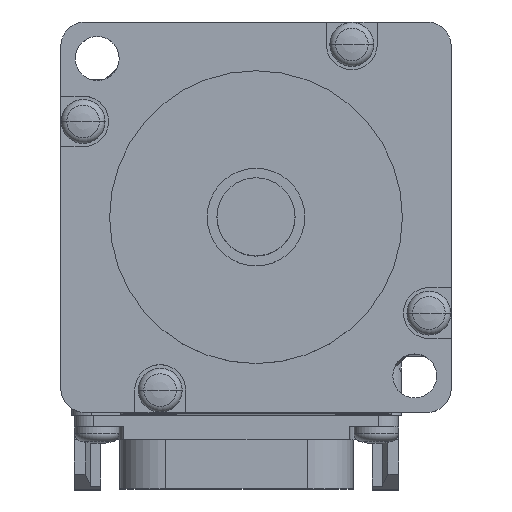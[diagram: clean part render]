
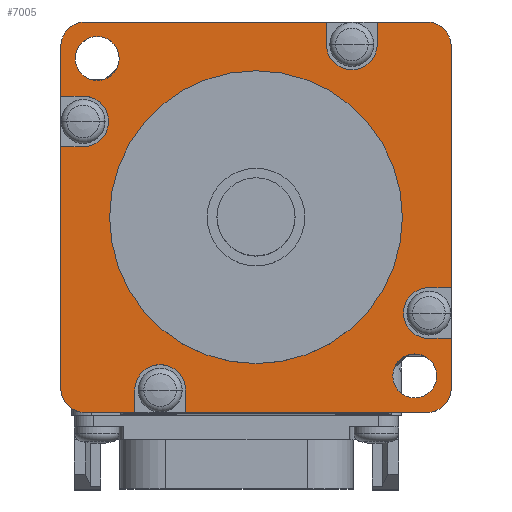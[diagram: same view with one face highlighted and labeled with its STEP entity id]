
A CAD part, top view. The second image highlights one B-rep face of the part: STEP entity #7005.
In plain terms, the highlighted planar face has unit normal (0, 0, 1).
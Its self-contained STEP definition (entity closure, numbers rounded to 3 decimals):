
#29=CARTESIAN_POINT('',(17.5,17.5,0.));
#30=DIRECTION('',(0.,0.,-1.));
#31=DIRECTION('',(0.,1.,0.));
#32=AXIS2_PLACEMENT_3D('',#29,#30,#31);
#34=CARTESIAN_POINT('',(17.711,-9.817,0.));
#35=DIRECTION('',(0.,0.,1.));
#36=DIRECTION('',(0.,1.,0.));
#37=AXIS2_PLACEMENT_3D('',#34,#35,#36);
#39=CARTESIAN_POINT('',(17.5,-17.5,0.));
#40=DIRECTION('',(0.,0.,-1.));
#41=DIRECTION('',(1.,0.,0.));
#42=AXIS2_PLACEMENT_3D('',#39,#40,#41);
#44=CARTESIAN_POINT('',(-9.817,-17.711,0.));
#45=DIRECTION('',(0.,0.,1.));
#46=DIRECTION('',(1.,0.,0.));
#47=AXIS2_PLACEMENT_3D('',#44,#45,#46);
#49=CARTESIAN_POINT('',(-17.5,-17.5,0.));
#50=DIRECTION('',(0.,0.,-1.));
#51=DIRECTION('',(0.,-1.,0.));
#52=AXIS2_PLACEMENT_3D('',#49,#50,#51);
#54=CARTESIAN_POINT('',(-17.711,9.817,0.));
#55=DIRECTION('',(0.,0.,1.));
#56=DIRECTION('',(0.,-1.,0.));
#57=AXIS2_PLACEMENT_3D('',#54,#55,#56);
#59=CARTESIAN_POINT('',(-17.5,17.5,0.));
#60=DIRECTION('',(0.,0.,-1.));
#61=DIRECTION('',(-1.,0.,0.));
#62=AXIS2_PLACEMENT_3D('',#59,#60,#61);
#64=CARTESIAN_POINT('',(9.817,17.711,0.));
#65=DIRECTION('',(0.,0.,1.));
#66=DIRECTION('',(-1.,0.,0.));
#67=AXIS2_PLACEMENT_3D('',#64,#65,#66);
#69=CARTESIAN_POINT('',(16.263,-16.263,0.));
#70=DIRECTION('',(0.,0.,1.));
#71=DIRECTION('',(0.,-1.,0.));
#72=AXIS2_PLACEMENT_3D('',#69,#70,#71);
#74=CARTESIAN_POINT('',(16.263,-16.263,0.));
#75=DIRECTION('',(0.,0.,1.));
#76=DIRECTION('',(0.,1.,0.));
#77=AXIS2_PLACEMENT_3D('',#74,#75,#76);
#79=CARTESIAN_POINT('',(-16.263,16.263,0.));
#80=DIRECTION('',(0.,0.,1.));
#81=DIRECTION('',(0.,1.,0.));
#82=AXIS2_PLACEMENT_3D('',#79,#80,#81);
#84=CARTESIAN_POINT('',(-16.263,16.263,0.));
#85=DIRECTION('',(0.,0.,1.));
#86=DIRECTION('',(0.,-1.,0.));
#87=AXIS2_PLACEMENT_3D('',#84,#85,#86);
#89=CARTESIAN_POINT('',(0.,0.,0.));
#90=DIRECTION('',(0.,0.,1.));
#91=DIRECTION('',(-1.,0.,0.));
#92=AXIS2_PLACEMENT_3D('',#89,#90,#91);
#94=CARTESIAN_POINT('',(0.,0.,0.));
#95=DIRECTION('',(0.,0.,1.));
#96=DIRECTION('',(1.,0.,0.));
#97=AXIS2_PLACEMENT_3D('',#94,#95,#96);
#167=DIRECTION('',(-1.,0.,0.));
#168=VECTOR('',#167,5.083);
#169=CARTESIAN_POINT('',(17.5,20.,0.));
#170=LINE('',#169,#168);
#171=DIRECTION('',(-1.,0.,0.));
#172=VECTOR('',#171,24.717);
#173=CARTESIAN_POINT('',(7.217,20.,0.));
#174=LINE('',#173,#172);
#367=DIRECTION('',(0.,-1.,0.));
#368=VECTOR('',#367,5.083);
#369=CARTESIAN_POINT('',(-20.,17.5,0.));
#370=LINE('',#369,#368);
#371=DIRECTION('',(0.,-1.,0.));
#372=VECTOR('',#371,24.717);
#373=CARTESIAN_POINT('',(-20.,7.217,0.));
#374=LINE('',#373,#372);
#691=DIRECTION('',(0.,1.,0.));
#692=VECTOR('',#691,5.083);
#693=CARTESIAN_POINT('',(20.,-17.5,0.));
#694=LINE('',#693,#692);
#695=DIRECTION('',(0.,1.,0.));
#696=VECTOR('',#695,24.717);
#697=CARTESIAN_POINT('',(20.,-7.217,0.));
#698=LINE('',#697,#696);
#1278=DIRECTION('',(1.,0.,0.));
#1279=VECTOR('',#1278,5.083);
#1280=CARTESIAN_POINT('',(-17.5,-20.,0.));
#1281=LINE('',#1280,#1279);
#1282=DIRECTION('',(1.,0.,0.));
#1283=VECTOR('',#1282,24.717);
#1284=CARTESIAN_POINT('',(-7.217,-20.,0.));
#1285=LINE('',#1284,#1283);
#4302=DIRECTION('',(0.,1.,0.));
#4303=VECTOR('',#4302,2.289);
#4304=CARTESIAN_POINT('',(-12.417,-20.,0.));
#4305=LINE('',#4304,#4303);
#4318=DIRECTION('',(0.,-1.,0.));
#4319=VECTOR('',#4318,2.289);
#4320=CARTESIAN_POINT('',(-7.217,-17.711,0.));
#4321=LINE('',#4320,#4319);
#4880=DIRECTION('',(-1.,0.,0.));
#4881=VECTOR('',#4880,2.289);
#4882=CARTESIAN_POINT('',(20.,-12.417,0.));
#4883=LINE('',#4882,#4881);
#4896=DIRECTION('',(1.,0.,0.));
#4897=VECTOR('',#4896,2.289);
#4898=CARTESIAN_POINT('',(17.711,-7.217,0.));
#4899=LINE('',#4898,#4897);
#5123=DIRECTION('',(1.,0.,0.));
#5124=VECTOR('',#5123,2.289);
#5125=CARTESIAN_POINT('',(-20.,12.417,0.));
#5126=LINE('',#5125,#5124);
#5139=DIRECTION('',(-1.,0.,0.));
#5140=VECTOR('',#5139,2.289);
#5141=CARTESIAN_POINT('',(-17.711,7.217,0.));
#5142=LINE('',#5141,#5140);
#5230=DIRECTION('',(0.,-1.,0.));
#5231=VECTOR('',#5230,2.289);
#5232=CARTESIAN_POINT('',(12.417,20.,0.));
#5233=LINE('',#5232,#5231);
#5246=DIRECTION('',(0.,1.,0.));
#5247=VECTOR('',#5246,2.289);
#5248=CARTESIAN_POINT('',(7.217,17.711,0.));
#5249=LINE('',#5248,#5247);
#5375=CARTESIAN_POINT('',(15.,0.,0.));
#5376=VERTEX_POINT('',#5375);
#5377=CARTESIAN_POINT('',(-15.,0.,0.));
#5378=VERTEX_POINT('',#5377);
#5379=CARTESIAN_POINT('',(16.263,-18.513,0.));
#5380=CARTESIAN_POINT('',(16.263,-14.013,0.));
#5381=VERTEX_POINT('',#5379);
#5382=VERTEX_POINT('',#5380);
#5383=CARTESIAN_POINT('',(-16.263,18.513,0.));
#5384=CARTESIAN_POINT('',(-16.263,14.013,0.));
#5385=VERTEX_POINT('',#5383);
#5386=VERTEX_POINT('',#5384);
#5387=CARTESIAN_POINT('',(17.5,20.,0.));
#5388=CARTESIAN_POINT('',(20.,17.5,0.));
#5389=VERTEX_POINT('',#5387);
#5390=VERTEX_POINT('',#5388);
#5391=CARTESIAN_POINT('',(17.711,-7.217,0.));
#5392=CARTESIAN_POINT('',(20.,-7.217,0.));
#5393=VERTEX_POINT('',#5391);
#5394=VERTEX_POINT('',#5392);
#5395=CARTESIAN_POINT('',(17.711,-12.417,0.));
#5396=VERTEX_POINT('',#5395);
#5397=CARTESIAN_POINT('',(20.,-12.417,0.));
#5398=VERTEX_POINT('',#5397);
#5399=CARTESIAN_POINT('',(20.,-17.5,0.));
#5400=CARTESIAN_POINT('',(17.5,-20.,0.));
#5401=VERTEX_POINT('',#5399);
#5402=VERTEX_POINT('',#5400);
#5403=CARTESIAN_POINT('',(-7.217,-17.711,0.));
#5404=CARTESIAN_POINT('',(-7.217,-20.,0.));
#5405=VERTEX_POINT('',#5403);
#5406=VERTEX_POINT('',#5404);
#5407=CARTESIAN_POINT('',(-12.417,-17.711,0.));
#5408=VERTEX_POINT('',#5407);
#5409=CARTESIAN_POINT('',(-12.417,-20.,0.));
#5410=VERTEX_POINT('',#5409);
#5411=CARTESIAN_POINT('',(-17.5,-20.,0.));
#5412=CARTESIAN_POINT('',(-20.,-17.5,0.));
#5413=VERTEX_POINT('',#5411);
#5414=VERTEX_POINT('',#5412);
#5415=CARTESIAN_POINT('',(-17.711,7.217,0.));
#5416=CARTESIAN_POINT('',(-20.,7.217,0.));
#5417=VERTEX_POINT('',#5415);
#5418=VERTEX_POINT('',#5416);
#5419=CARTESIAN_POINT('',(-17.711,12.417,0.));
#5420=VERTEX_POINT('',#5419);
#5421=CARTESIAN_POINT('',(-20.,12.417,0.));
#5422=VERTEX_POINT('',#5421);
#5423=CARTESIAN_POINT('',(-20.,17.5,0.));
#5424=CARTESIAN_POINT('',(-17.5,20.,0.));
#5425=VERTEX_POINT('',#5423);
#5426=VERTEX_POINT('',#5424);
#5427=CARTESIAN_POINT('',(7.217,17.711,0.));
#5428=CARTESIAN_POINT('',(7.217,20.,0.));
#5429=VERTEX_POINT('',#5427);
#5430=VERTEX_POINT('',#5428);
#5431=CARTESIAN_POINT('',(12.417,17.711,0.));
#5432=VERTEX_POINT('',#5431);
#5433=CARTESIAN_POINT('',(12.417,20.,0.));
#5434=VERTEX_POINT('',#5433);
#6934=CARTESIAN_POINT('',(0.,0.,0.));
#6935=DIRECTION('',(0.,0.,1.));
#6936=DIRECTION('',(1.,0.,0.));
#6937=AXIS2_PLACEMENT_3D('',#6934,#6935,#6936);
#6938=PLANE('',#6937);
#6940=ORIENTED_EDGE('',*,*,#6939,.T.);
#6942=ORIENTED_EDGE('',*,*,#6941,.F.);
#6944=ORIENTED_EDGE('',*,*,#6943,.F.);
#6946=ORIENTED_EDGE('',*,*,#6945,.T.);
#6948=ORIENTED_EDGE('',*,*,#6947,.F.);
#6950=ORIENTED_EDGE('',*,*,#6949,.F.);
#6952=ORIENTED_EDGE('',*,*,#6951,.T.);
#6954=ORIENTED_EDGE('',*,*,#6953,.F.);
#6956=ORIENTED_EDGE('',*,*,#6955,.F.);
#6958=ORIENTED_EDGE('',*,*,#6957,.T.);
#6960=ORIENTED_EDGE('',*,*,#6959,.F.);
#6962=ORIENTED_EDGE('',*,*,#6961,.F.);
#6964=ORIENTED_EDGE('',*,*,#6963,.T.);
#6966=ORIENTED_EDGE('',*,*,#6965,.F.);
#6968=ORIENTED_EDGE('',*,*,#6967,.F.);
#6970=ORIENTED_EDGE('',*,*,#6969,.T.);
#6972=ORIENTED_EDGE('',*,*,#6971,.F.);
#6974=ORIENTED_EDGE('',*,*,#6973,.F.);
#6976=ORIENTED_EDGE('',*,*,#6975,.T.);
#6978=ORIENTED_EDGE('',*,*,#6977,.F.);
#6980=ORIENTED_EDGE('',*,*,#6979,.F.);
#6982=ORIENTED_EDGE('',*,*,#6981,.T.);
#6984=ORIENTED_EDGE('',*,*,#6983,.F.);
#6986=ORIENTED_EDGE('',*,*,#6985,.F.);
#6987=EDGE_LOOP('',(#6940,#6942,#6944,#6946,#6948,#6950,#6952,#6954,#6956,#6958,
#6960,#6962,#6964,#6966,#6968,#6970,#6972,#6974,#6976,#6978,#6980,#6982,#6984,
#6986));
#6988=FACE_OUTER_BOUND('',#6987,.F.);
#6990=ORIENTED_EDGE('',*,*,#6989,.T.);
#6992=ORIENTED_EDGE('',*,*,#6991,.T.);
#6993=EDGE_LOOP('',(#6990,#6992));
#6994=FACE_BOUND('',#6993,.F.);
#6996=ORIENTED_EDGE('',*,*,#6995,.T.);
#6998=ORIENTED_EDGE('',*,*,#6997,.T.);
#6999=EDGE_LOOP('',(#6996,#6998));
#7000=FACE_BOUND('',#6999,.F.);
#7001=ORIENTED_EDGE('',*,*,#6914,.T.);
#7002=ORIENTED_EDGE('',*,*,#6928,.T.);
#7003=EDGE_LOOP('',(#7001,#7002));
#7004=FACE_BOUND('',#7003,.F.);
#7005=ADVANCED_FACE('',(#6988,#6994,#7000,#7004),#6938,.T.);
#33=CIRCLE('',#32,2.5);
#38=CIRCLE('',#37,2.6);
#43=CIRCLE('',#42,2.5);
#48=CIRCLE('',#47,2.6);
#53=CIRCLE('',#52,2.5);
#58=CIRCLE('',#57,2.6);
#63=CIRCLE('',#62,2.5);
#68=CIRCLE('',#67,2.6);
#73=CIRCLE('',#72,2.25);
#78=CIRCLE('',#77,2.25);
#83=CIRCLE('',#82,2.25);
#88=CIRCLE('',#87,2.25);
#93=CIRCLE('',#92,15.);
#98=CIRCLE('',#97,15.);
#6914=EDGE_CURVE('',#5378,#5376,#93,.T.);
#6928=EDGE_CURVE('',#5376,#5378,#98,.T.);
#6939=EDGE_CURVE('',#5389,#5390,#33,.T.);
#6941=EDGE_CURVE('',#5394,#5390,#698,.T.);
#6943=EDGE_CURVE('',#5393,#5394,#4899,.T.);
#6945=EDGE_CURVE('',#5393,#5396,#38,.T.);
#6947=EDGE_CURVE('',#5398,#5396,#4883,.T.);
#6949=EDGE_CURVE('',#5401,#5398,#694,.T.);
#6951=EDGE_CURVE('',#5401,#5402,#43,.T.);
#6953=EDGE_CURVE('',#5406,#5402,#1285,.T.);
#6955=EDGE_CURVE('',#5405,#5406,#4321,.T.);
#6957=EDGE_CURVE('',#5405,#5408,#48,.T.);
#6959=EDGE_CURVE('',#5410,#5408,#4305,.T.);
#6961=EDGE_CURVE('',#5413,#5410,#1281,.T.);
#6963=EDGE_CURVE('',#5413,#5414,#53,.T.);
#6965=EDGE_CURVE('',#5418,#5414,#374,.T.);
#6967=EDGE_CURVE('',#5417,#5418,#5142,.T.);
#6969=EDGE_CURVE('',#5417,#5420,#58,.T.);
#6971=EDGE_CURVE('',#5422,#5420,#5126,.T.);
#6973=EDGE_CURVE('',#5425,#5422,#370,.T.);
#6975=EDGE_CURVE('',#5425,#5426,#63,.T.);
#6977=EDGE_CURVE('',#5430,#5426,#174,.T.);
#6979=EDGE_CURVE('',#5429,#5430,#5249,.T.);
#6981=EDGE_CURVE('',#5429,#5432,#68,.T.);
#6983=EDGE_CURVE('',#5434,#5432,#5233,.T.);
#6985=EDGE_CURVE('',#5389,#5434,#170,.T.);
#6989=EDGE_CURVE('',#5381,#5382,#73,.T.);
#6991=EDGE_CURVE('',#5382,#5381,#78,.T.);
#6995=EDGE_CURVE('',#5385,#5386,#83,.T.);
#6997=EDGE_CURVE('',#5386,#5385,#88,.T.);
